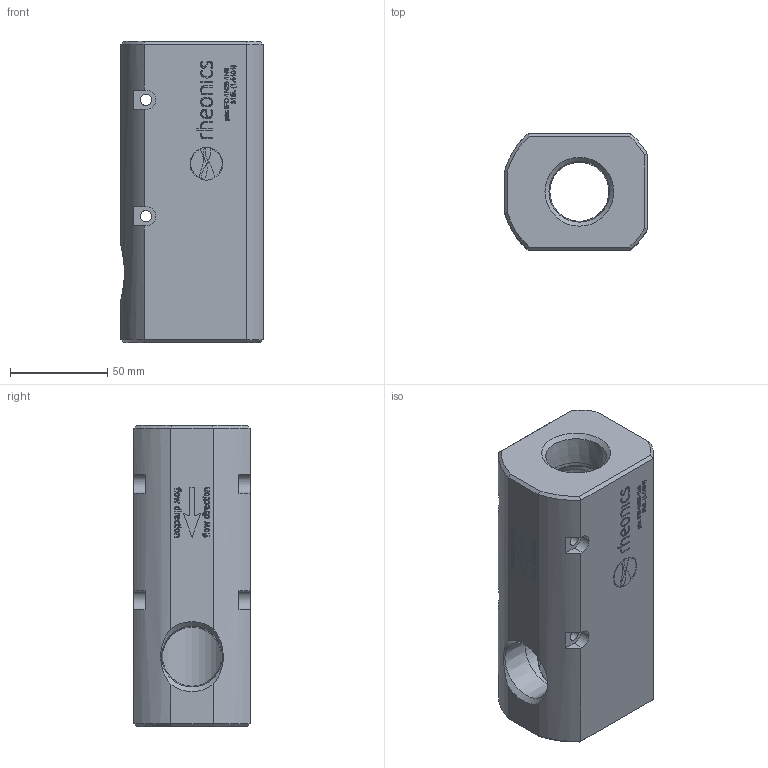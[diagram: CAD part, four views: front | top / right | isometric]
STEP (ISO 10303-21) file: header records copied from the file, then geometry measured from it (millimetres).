
FILE_DESCRIPTION(/* description */ ('Unknown'),/* implementation_level */ '2;1');
FILE_NAME(/* name */ 'IFC-1N25-1N0',/* time_stamp */ '2025-05-08T11:07:53-05:00',/* author */ ('Unknown'),/* organization */ ('Unknown'),/* preprocessor_version */ 'ST-DEVELOPER v16.7',/* originating_system */ 'Solid Edge',/* authorisation */ 'Unknown');
FILE_SCHEMA (('AUTOMOTIVE_DESIGN {1 0 10303 214 3 1 1}'));
Length unit declared in the file: millimetre
Products named in the file (1): IFC-1N25-1N0-SRD
Bounding box: 73.5 x 60 x 155 mm (x, y, z)
Volume: 462834.8 mm3; surface area: 62965.3 mm2
Topology: 1 solids, 1 shells, 1141 faces, 2960 edges, 1966 vertices
Faces by surface type: plane 712, bspline 386, cylinder 26, cone 16, torus 1
Full cylindrical faces by diameter (mm): 5.8 x2, 30.411 x2, 35 x1, 39.136 x1
Entity records: 47128 total; most frequent: CARTESIAN_POINT 14578, ORIENTED_EDGE 5844, DIRECTION 3396, EDGE_CURVE 2922, VERTEX_POINT 1957, LINE 1734, VECTOR 1734, EDGE_LOOP 1323
